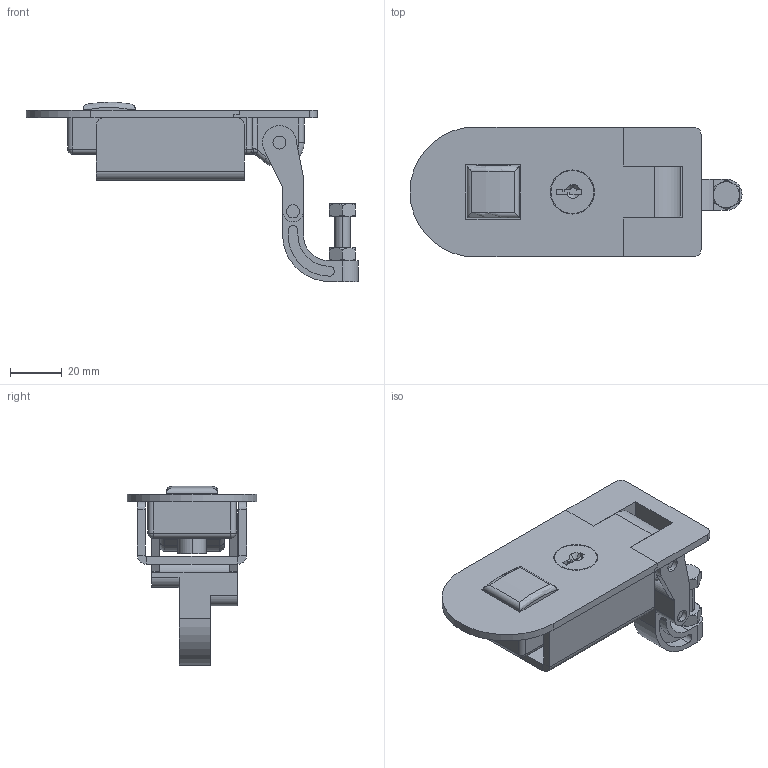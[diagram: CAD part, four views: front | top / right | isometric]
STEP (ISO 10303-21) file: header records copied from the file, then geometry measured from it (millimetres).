
FILE_DESCRIPTION (( 'STEP AP214' ), '1' );
FILE_NAME ('2.601.001.STEP', '2012-11-30T08:40:22', ( 'Krzysiek' ), ( '' ), 'SwSTEP 2.0', 'SolidWorks 2010', '' );
FILE_SCHEMA (( 'AUTOMOTIVE_DESIGN' ));
Length unit declared in the file: millimetre
Products named in the file (7): Czêœæ10; Czêœæ12^Z³o¿enie3; Czêœæ13; Czêœæ14; M6x25; Nakrêtka M6; 2.601.001
Assembly tree (6 placements, depth 2):
  2.601.001
    Czêœæ13
    Czêœæ14
    M6x25
    Czêœæ12^Z³o¿enie3
    Nakrêtka M6
    Czêœæ10
Bounding box: 127.74 x 50 x 68.92 mm (x, y, z)
Volume: 79950.6 mm3; surface area: 39380.4 mm2
Topology: 6 solids, 6 shells, 276 faces, 677 edges, 420 vertices
Faces by surface type: plane 130, cylinder 86, cone 41, bspline 10, torus 5, sphere 4
Entity records: 9627 total; most frequent: CARTESIAN_POINT 2867, ORIENTED_EDGE 1346, DIRECTION 1345, EDGE_CURVE 673, AXIS2_PLACEMENT_3D 492, VERTEX_POINT 420, VECTOR 361, LINE 361
